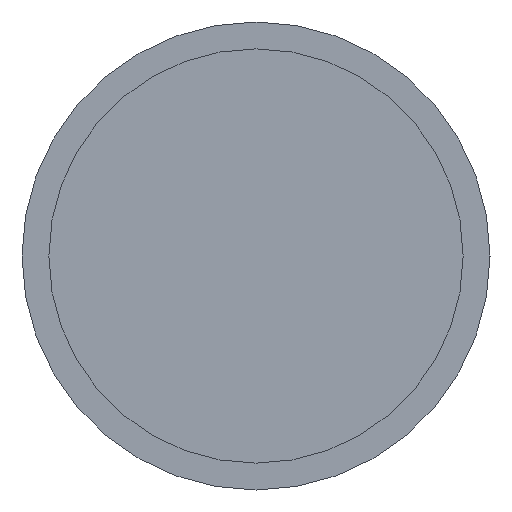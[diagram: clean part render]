
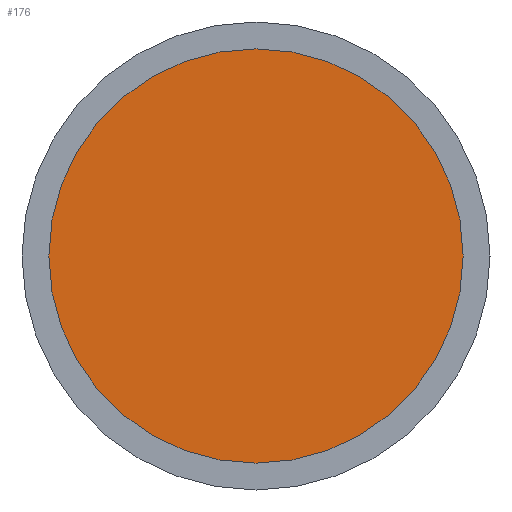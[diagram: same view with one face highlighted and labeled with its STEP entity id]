
A CAD part, left-side view. The second image highlights one B-rep face of the part: STEP entity #176.
In plain terms, the highlighted planar face has unit normal (-1, 0, 0).
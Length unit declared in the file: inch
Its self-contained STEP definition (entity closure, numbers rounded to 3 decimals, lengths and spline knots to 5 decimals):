
#61=FACE_OUTER_BOUND('',#69,.T.);
#69=EDGE_LOOP('',(#125,#126));
#78=CIRCLE('',#205,0.841);
#79=CIRCLE('',#206,0.841);
#92=VERTEX_POINT('',#318);
#93=VERTEX_POINT('',#319);
#106=EDGE_CURVE('',#92,#93,#78,.T.);
#107=EDGE_CURVE('',#93,#92,#79,.T.);
#125=ORIENTED_EDGE('',*,*,#106,.F.);
#126=ORIENTED_EDGE('',*,*,#107,.F.);
#163=PLANE('',#204);
#176=ADVANCED_FACE('',(#61),#163,.T.);
#204=AXIS2_PLACEMENT_3D('',#317,#241,#242);
#205=AXIS2_PLACEMENT_3D('',#320,#243,#244);
#206=AXIS2_PLACEMENT_3D('',#321,#245,#246);
#241=DIRECTION('center_axis',(-1.,0.,0.));
#242=DIRECTION('ref_axis',(0.,0.,1.));
#243=DIRECTION('center_axis',(1.,0.,0.));
#244=DIRECTION('ref_axis',(0.,1.,0.));
#245=DIRECTION('center_axis',(1.,0.,0.));
#246=DIRECTION('ref_axis',(0.,1.,0.));
#317=CARTESIAN_POINT('Origin',(2.266,0.4205,0.));
#318=CARTESIAN_POINT('',(2.266,0.841,0.));
#319=CARTESIAN_POINT('',(2.266,-0.841,0.));
#320=CARTESIAN_POINT('Origin',(2.266,0.,0.));
#321=CARTESIAN_POINT('Origin',(2.266,0.,0.));
